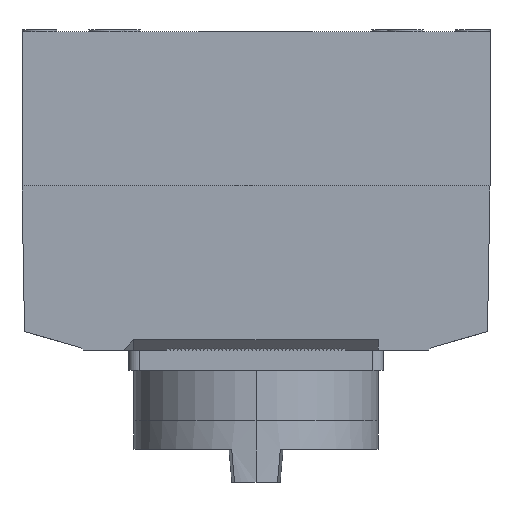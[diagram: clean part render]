
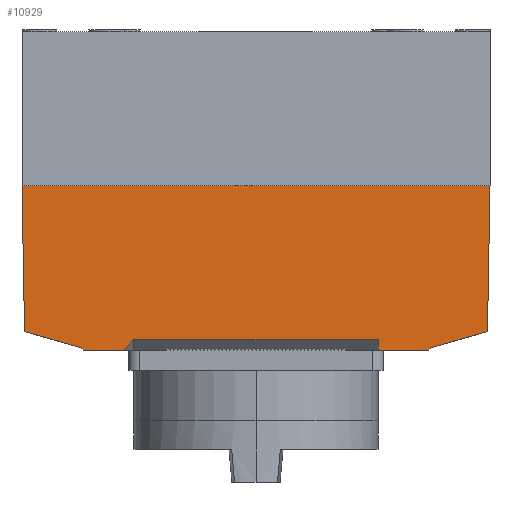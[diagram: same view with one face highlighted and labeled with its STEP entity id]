
A CAD part, left-side view. The second image highlights one B-rep face of the part: STEP entity #10929.
In plain terms, the highlighted planar face has unit normal (-1, 0, -0.018).
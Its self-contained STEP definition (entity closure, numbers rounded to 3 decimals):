
#8 = CARTESIAN_POINT ( 'NONE',  ( 0.768, 125.5, -44. ) ) ;
#129 = PLANE ( 'NONE',  #12778 ) ;
#262 = DIRECTION ( 'NONE',  ( -0.017, 0.017, 1. ) ) ;
#270 = CARTESIAN_POINT ( 'NONE',  ( 0.72, 95.5, -41.25 ) ) ;
#547 = ORIENTED_EDGE ( 'NONE', *, *, #12917, .T. ) ;
#551 = VECTOR ( 'NONE', #2523, 1000. ) ;
#896 = LINE ( 'NONE', #8, #13427 ) ;
#1011 = EDGE_CURVE ( 'NONE', #1904, #2794, #7158, .T. ) ;
#1014 = DIRECTION ( 'NONE',  ( -1., 0., -0.017 ) ) ;
#1036 = ORIENTED_EDGE ( 'NONE', *, *, #5687, .F. ) ;
#1183 = CARTESIAN_POINT ( 'NONE',  ( 0.757, 109.776, -43.343 ) ) ;
#1400 = EDGE_CURVE ( 'NONE', #6113, #7671, #10198, .T. ) ;
#1545 = VECTOR ( 'NONE', #2073, 1000. ) ;
#1602 = VERTEX_POINT ( 'NONE', #9710 ) ;
#1904 = VERTEX_POINT ( 'NONE', #12541 ) ;
#1912 = CARTESIAN_POINT ( 'NONE',  ( 0.757, 109.769, -43.35 ) ) ;
#1948 = VECTOR ( 'NONE', #8209, 1000. ) ;
#2011 = ORIENTED_EDGE ( 'NONE', *, *, #12267, .F. ) ;
#2073 = DIRECTION ( 'NONE',  ( 0.012, 0.707, -0.707 ) ) ;
#2337 = VERTEX_POINT ( 'NONE', #4254 ) ;
#2363 = ORIENTED_EDGE ( 'NONE', *, *, #12072, .F. ) ;
#2479 = ORIENTED_EDGE ( 'NONE', *, *, #10021, .F. ) ;
#2523 = DIRECTION ( 'NONE',  ( 0.017, 0., -1. ) ) ;
#2663 = LINE ( 'NONE', #6799, #7850 ) ;
#2794 = VERTEX_POINT ( 'NONE', #5444 ) ;
#3070 = DIRECTION ( 'NONE',  ( 0., 1., 0. ) ) ;
#3088 = DIRECTION ( 'NONE',  ( -0.012, 0.707, 0.707 ) ) ;
#3149 = EDGE_CURVE ( 'NONE', #11340, #13419, #9556, .T. ) ;
#3369 = EDGE_LOOP ( 'NONE', ( #11140, #2011, #8698, #547, #3662, #2479, #11813, #13189, #7517, #2363, #12893, #1036, #12241 ) ) ;
#3555 = CARTESIAN_POINT ( 'NONE',  ( 0.768, 16.381, -44. ) ) ;
#3662 = ORIENTED_EDGE ( 'NONE', *, *, #11757, .F. ) ;
#4254 = CARTESIAN_POINT ( 'NONE',  ( 0.757, 15.731, -43.35 ) ) ;
#4405 = DIRECTION ( 'NONE',  ( -0.017, 0., 1. ) ) ;
#4579 = VERTEX_POINT ( 'NONE', #3555 ) ;
#4617 = VERTEX_POINT ( 'NONE', #5519 ) ;
#5158 = CARTESIAN_POINT ( 'NONE',  ( 0., 0., 0. ) ) ;
#5356 = CARTESIAN_POINT ( 'NONE',  ( 0., 125.5, 0. ) ) ;
#5444 = CARTESIAN_POINT ( 'NONE',  ( 0.768, 98.21, -44. ) ) ;
#5509 = CARTESIAN_POINT ( 'NONE',  ( 0.768, 125.5, -44. ) ) ;
#5519 = CARTESIAN_POINT ( 'NONE',  ( 0.768, 30., -44. ) ) ;
#5687 = EDGE_CURVE ( 'NONE', #8882, #6113, #7355, .T. ) ;
#5844 = LINE ( 'NONE', #9038, #7166 ) ;
#5892 = LINE ( 'NONE', #8878, #7253 ) ;
#6095 = VECTOR ( 'NONE', #9246, 1000. ) ;
#6103 = VECTOR ( 'NONE', #10285, 1000. ) ;
#6113 = VERTEX_POINT ( 'NONE', #1912 ) ;
#6129 = EDGE_CURVE ( 'NONE', #2794, #8882, #896, .T. ) ;
#6241 = CARTESIAN_POINT ( 'NONE',  ( 0.681, 124.819, -39. ) ) ;
#6299 = CARTESIAN_POINT ( 'NONE',  ( 0.03, 125.47, -1.744 ) ) ;
#6342 = VECTOR ( 'NONE', #10647, 1000. ) ;
#6361 = VECTOR ( 'NONE', #262, 1000. ) ;
#6524 = CARTESIAN_POINT ( 'NONE',  ( 0.768, 30., -44. ) ) ;
#6543 = EDGE_CURVE ( 'NONE', #13310, #11907, #7260, .T. ) ;
#6605 = CARTESIAN_POINT ( 'NONE',  ( 0.72, 95.5, -41.25 ) ) ;
#6799 = CARTESIAN_POINT ( 'NONE',  ( 0., 0., 0. ) ) ;
#7154 = CARTESIAN_POINT ( 'NONE',  ( 0.768, 109.119, -44. ) ) ;
#7158 = LINE ( 'NONE', #8183, #1545 ) ;
#7166 = VECTOR ( 'NONE', #12094, 1000. ) ;
#7253 = VECTOR ( 'NONE', #13019, 1000. ) ;
#7260 = LINE ( 'NONE', #13365, #1948 ) ;
#7283 = CARTESIAN_POINT ( 'NONE',  ( 0.681, 124.822, -38.999 ) ) ;
#7297 = CARTESIAN_POINT ( 'NONE',  ( 0.768, 16.374, -43.993 ) ) ;
#7355 = LINE ( 'NONE', #1183, #11030 ) ;
#7371 = EDGE_CURVE ( 'NONE', #13310, #2337, #5844, .T. ) ;
#7394 = LINE ( 'NONE', #6299, #6361 ) ;
#7517 = ORIENTED_EDGE ( 'NONE', *, *, #8011, .F. ) ;
#7615 = LINE ( 'NONE', #6524, #551 ) ;
#7671 = VERTEX_POINT ( 'NONE', #6241 ) ;
#7850 = VECTOR ( 'NONE', #9913, 1000. ) ;
#8011 = EDGE_CURVE ( 'NONE', #1602, #11907, #2663, .T. ) ;
#8183 = CARTESIAN_POINT ( 'NONE',  ( 0.622, 89.852, -35.643 ) ) ;
#8209 = DIRECTION ( 'NONE',  ( -0.017, -0.017, 1. ) ) ;
#8494 = LINE ( 'NONE', #5509, #12679 ) ;
#8698 = ORIENTED_EDGE ( 'NONE', *, *, #3149, .T. ) ;
#8878 = CARTESIAN_POINT ( 'NONE',  ( 0.768, 95.5, -44. ) ) ;
#8882 = VERTEX_POINT ( 'NONE', #7154 ) ;
#9038 = CARTESIAN_POINT ( 'NONE',  ( 0.757, 15.727, -43.349 ) ) ;
#9246 = DIRECTION ( 'NONE',  ( -0.005, 0.961, 0.278 ) ) ;
#9293 = FACE_OUTER_BOUND ( 'NONE', #3369, .T. ) ;
#9556 = LINE ( 'NONE', #270, #6342 ) ;
#9641 = DIRECTION ( 'NONE',  ( 0., 1., 0. ) ) ;
#9710 = CARTESIAN_POINT ( 'NONE',  ( 0., 125.5, 0. ) ) ;
#9836 = CARTESIAN_POINT ( 'NONE',  ( 0.72, 30., -41.25 ) ) ;
#9913 = DIRECTION ( 'NONE',  ( 0., -1., 0. ) ) ;
#10021 = EDGE_CURVE ( 'NONE', #2337, #4579, #13273, .T. ) ;
#10198 = LINE ( 'NONE', #7283, #6095 ) ;
#10285 = DIRECTION ( 'NONE',  ( 0.012, 0.707, -0.707 ) ) ;
#10647 = DIRECTION ( 'NONE',  ( 0., -1., 0. ) ) ;
#10929 = ADVANCED_FACE ( 'NONE', ( #9293 ), #129, .T. ) ;
#11030 = VECTOR ( 'NONE', #3088, 1000. ) ;
#11140 = ORIENTED_EDGE ( 'NONE', *, *, #1011, .F. ) ;
#11340 = VERTEX_POINT ( 'NONE', #6605 ) ;
#11757 = EDGE_CURVE ( 'NONE', #4579, #4617, #8494, .T. ) ;
#11813 = ORIENTED_EDGE ( 'NONE', *, *, #7371, .F. ) ;
#11907 = VERTEX_POINT ( 'NONE', #5158 ) ;
#12072 = EDGE_CURVE ( 'NONE', #7671, #1602, #7394, .T. ) ;
#12094 = DIRECTION ( 'NONE',  ( 0.005, 0.961, -0.278 ) ) ;
#12241 = ORIENTED_EDGE ( 'NONE', *, *, #6129, .F. ) ;
#12267 = EDGE_CURVE ( 'NONE', #11340, #1904, #5892, .T. ) ;
#12541 = CARTESIAN_POINT ( 'NONE',  ( 0.721, 95.5, -41.29 ) ) ;
#12618 = CARTESIAN_POINT ( 'NONE',  ( 0.681, 0.681, -39. ) ) ;
#12679 = VECTOR ( 'NONE', #9641, 1000. ) ;
#12778 = AXIS2_PLACEMENT_3D ( 'NONE', #5356, #1014, #4405 ) ;
#12893 = ORIENTED_EDGE ( 'NONE', *, *, #1400, .F. ) ;
#12917 = EDGE_CURVE ( 'NONE', #13419, #4617, #7615, .T. ) ;
#13019 = DIRECTION ( 'NONE',  ( 0.017, 0., -1. ) ) ;
#13189 = ORIENTED_EDGE ( 'NONE', *, *, #6543, .T. ) ;
#13273 = LINE ( 'NONE', #7297, #6103 ) ;
#13310 = VERTEX_POINT ( 'NONE', #12618 ) ;
#13365 = CARTESIAN_POINT ( 'NONE',  ( 0.038, 0.038, -2.189 ) ) ;
#13419 = VERTEX_POINT ( 'NONE', #9836 ) ;
#13427 = VECTOR ( 'NONE', #3070, 1000. ) ;
